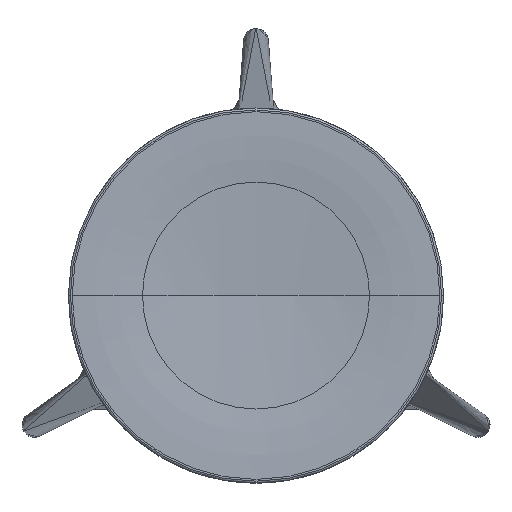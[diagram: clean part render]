
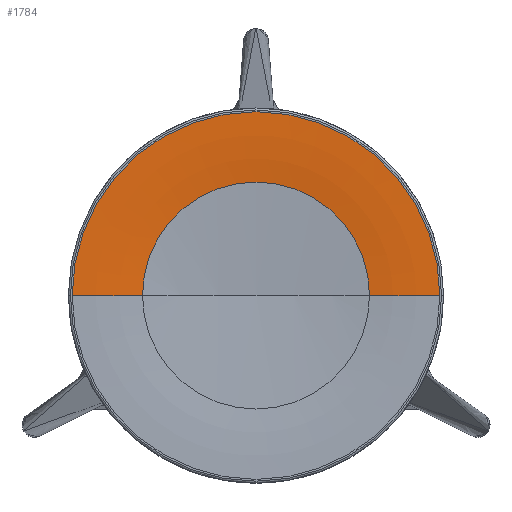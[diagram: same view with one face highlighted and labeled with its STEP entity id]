
A CAD part, top view. The second image highlights one B-rep face of the part: STEP entity #1784.
In plain terms, the highlighted toroidal (fillet/blend) face has major radius 181.505 mm and minor radius 620 mm.
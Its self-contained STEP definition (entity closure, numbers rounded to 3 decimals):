
#128 = EDGE_CURVE ( 'NONE', #11505, #9151, #7284, .T. ) ;
#722 = CARTESIAN_POINT ( 'NONE',  ( 0., 0., 795.596 ) ) ;
#731 = CARTESIAN_POINT ( 'NONE',  ( 112.04, 0., 795.596 ) ) ;
#1052 = AXIS2_PLACEMENT_3D ( 'NONE', #11978, #2253, #6062 ) ;
#1784 = ADVANCED_FACE ( 'NONE', ( #8874 ), #15166, .T. ) ;
#1933 = EDGE_CURVE ( 'NONE', #10417, #9151, #10355, .T. ) ;
#1939 = CARTESIAN_POINT ( 'NONE',  ( -181.505, 0., 799.5 ) ) ;
#2253 = DIRECTION ( 'NONE',  ( 0., 0., 1. ) ) ;
#2732 = AXIS2_PLACEMENT_3D ( 'NONE', #3909, #8651, #14745 ) ;
#2941 = CARTESIAN_POINT ( 'NONE',  ( 0., 0., 179.5 ) ) ;
#3046 = CARTESIAN_POINT ( 'NONE',  ( 181.505, 0., 799.5 ) ) ;
#3306 = EDGE_LOOP ( 'NONE', ( #8924, #11760, #12095, #8514 ) ) ;
#3909 = CARTESIAN_POINT ( 'NONE',  ( -181.505, 0., 179.5 ) ) ;
#6062 = DIRECTION ( 'NONE',  ( 1., 0., 0. ) ) ;
#6358 = CIRCLE ( 'NONE', #1052, 181.505 ) ;
#6670 = EDGE_CURVE ( 'NONE', #11455, #11505, #6358, .T. ) ;
#7284 = CIRCLE ( 'NONE', #2732, 620. ) ;
#7754 = DIRECTION ( 'NONE',  ( 0., 0., 1. ) ) ;
#8017 = DIRECTION ( 'NONE',  ( 0., -1., 0. ) ) ;
#8514 = ORIENTED_EDGE ( 'NONE', *, *, #11489, .F. ) ;
#8651 = DIRECTION ( 'NONE',  ( 0., 1., 0. ) ) ;
#8796 = DIRECTION ( 'NONE',  ( 1., 0., 0. ) ) ;
#8874 = FACE_OUTER_BOUND ( 'NONE', #3306, .T. ) ;
#8924 = ORIENTED_EDGE ( 'NONE', *, *, #6670, .T. ) ;
#9151 = VERTEX_POINT ( 'NONE', #15009 ) ;
#9343 = DIRECTION ( 'NONE',  ( 0., 0., 1. ) ) ;
#10355 = CIRCLE ( 'NONE', #10626, 112.04 ) ;
#10417 = VERTEX_POINT ( 'NONE', #731 ) ;
#10626 = AXIS2_PLACEMENT_3D ( 'NONE', #722, #9343, #11710 ) ;
#10797 = AXIS2_PLACEMENT_3D ( 'NONE', #13805, #8017, #12849 ) ;
#11455 = VERTEX_POINT ( 'NONE', #3046 ) ;
#11489 = EDGE_CURVE ( 'NONE', #11455, #10417, #14357, .T. ) ;
#11505 = VERTEX_POINT ( 'NONE', #1939 ) ;
#11710 = DIRECTION ( 'NONE',  ( 1., 0., 0. ) ) ;
#11760 = ORIENTED_EDGE ( 'NONE', *, *, #128, .T. ) ;
#11978 = CARTESIAN_POINT ( 'NONE',  ( 0., 0., 799.5 ) ) ;
#12095 = ORIENTED_EDGE ( 'NONE', *, *, #1933, .F. ) ;
#12849 = DIRECTION ( 'NONE',  ( 0., 0., -1. ) ) ;
#13805 = CARTESIAN_POINT ( 'NONE',  ( 181.505, 0., 179.5 ) ) ;
#14357 = CIRCLE ( 'NONE', #10797, 620. ) ;
#14745 = DIRECTION ( 'NONE',  ( -1., 0., 0. ) ) ;
#15009 = CARTESIAN_POINT ( 'NONE',  ( -112.04, 0., 795.596 ) ) ;
#15166 = TOROIDAL_SURFACE ( 'NONE', #15434, 181.505, 620. ) ;
#15434 = AXIS2_PLACEMENT_3D ( 'NONE', #2941, #7754, #8796 ) ;
